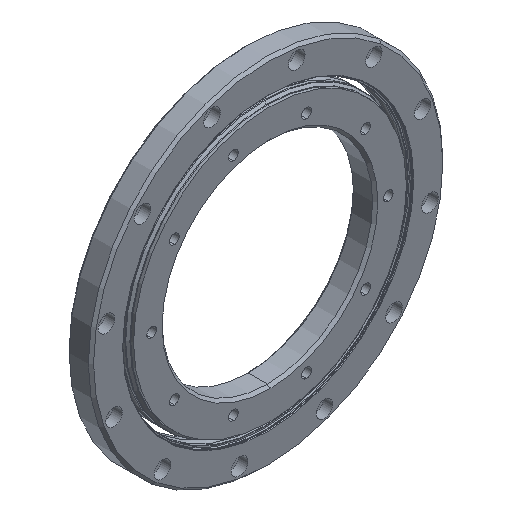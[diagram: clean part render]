
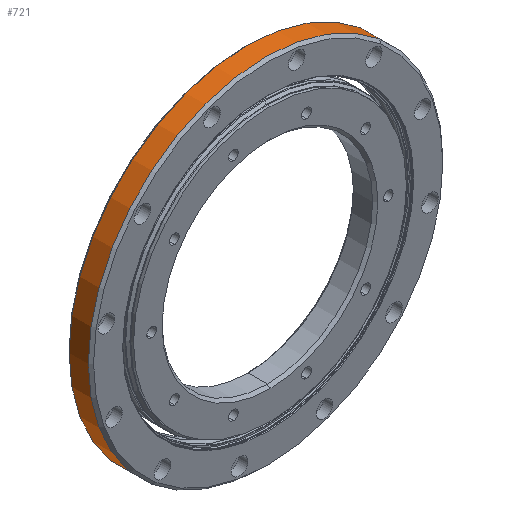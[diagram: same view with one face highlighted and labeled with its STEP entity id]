
A CAD part, isometric view. The second image highlights one B-rep face of the part: STEP entity #721.
In plain terms, the highlighted cylindrical face has radius 101.6 mm (diameter 203.2 mm), a partial arc.
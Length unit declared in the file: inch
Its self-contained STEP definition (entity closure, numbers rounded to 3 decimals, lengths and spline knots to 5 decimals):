
#213 = CARTESIAN_POINT ( 'NONE',  ( 0., 0.09843, 0. ) ) ;
#549 = CARTESIAN_POINT ( 'NONE',  ( 0., 0., 4. ) ) ;
#681 = DIRECTION ( 'NONE',  ( 0., 0., -1. ) ) ;
#721 = ADVANCED_FACE ( 'NONE', ( #2784 ), #4926, .T. ) ;
#1043 = ORIENTED_EDGE ( 'NONE', *, *, #1100, .T. ) ;
#1100 = EDGE_CURVE ( 'NONE', #4924, #5386, #3848, .T. ) ;
#1104 = ORIENTED_EDGE ( 'NONE', *, *, #3352, .T. ) ;
#1178 = CARTESIAN_POINT ( 'NONE',  ( 0., 0.09843, -4. ) ) ;
#1238 = VECTOR ( 'NONE', #1432, 39.37008 ) ;
#1279 = VERTEX_POINT ( 'NONE', #4013 ) ;
#1379 = VERTEX_POINT ( 'NONE', #3590 ) ;
#1432 = DIRECTION ( 'NONE',  ( 0., -1., 0. ) ) ;
#1598 = EDGE_LOOP ( 'NONE', ( #2406, #1104, #1043, #2648 ) ) ;
#1880 = AXIS2_PLACEMENT_3D ( 'NONE', #4830, #1886, #1920 ) ;
#1886 = DIRECTION ( 'NONE',  ( 0., -1., 0. ) ) ;
#1920 = DIRECTION ( 'NONE',  ( 0., 0., -1. ) ) ;
#2160 = AXIS2_PLACEMENT_3D ( 'NONE', #213, #3284, #681 ) ;
#2204 = AXIS2_PLACEMENT_3D ( 'NONE', #5124, #2558, #5544 ) ;
#2406 = ORIENTED_EDGE ( 'NONE', *, *, #2862, .F. ) ;
#2487 = DIRECTION ( 'NONE',  ( 0., -1., 0. ) ) ;
#2558 = DIRECTION ( 'NONE',  ( 0., -1., 0. ) ) ;
#2648 = ORIENTED_EDGE ( 'NONE', *, *, #4092, .T. ) ;
#2784 = FACE_OUTER_BOUND ( 'NONE', #1598, .T. ) ;
#2862 = EDGE_CURVE ( 'NONE', #1279, #1379, #3811, .T. ) ;
#3284 = DIRECTION ( 'NONE',  ( 0., 1., 0. ) ) ;
#3352 = EDGE_CURVE ( 'NONE', #1279, #4924, #3672, .T. ) ;
#3590 = CARTESIAN_POINT ( 'NONE',  ( 0., 0.09843, 4. ) ) ;
#3672 = CIRCLE ( 'NONE', #2204, 4. ) ;
#3811 = LINE ( 'NONE', #549, #1238 ) ;
#3848 = LINE ( 'NONE', #5126, #4850 ) ;
#4013 = CARTESIAN_POINT ( 'NONE',  ( 0., 0.5315, 4. ) ) ;
#4092 = EDGE_CURVE ( 'NONE', #5386, #1379, #4328, .T. ) ;
#4328 = CIRCLE ( 'NONE', #2160, 4. ) ;
#4671 = CARTESIAN_POINT ( 'NONE',  ( 0., 0.5315, -4. ) ) ;
#4830 = CARTESIAN_POINT ( 'NONE',  ( 0., 0., 0. ) ) ;
#4850 = VECTOR ( 'NONE', #2487, 39.37008 ) ;
#4924 = VERTEX_POINT ( 'NONE', #4671 ) ;
#4926 = CYLINDRICAL_SURFACE ( 'NONE', #1880, 4. ) ;
#5124 = CARTESIAN_POINT ( 'NONE',  ( 0., 0.5315, 0. ) ) ;
#5126 = CARTESIAN_POINT ( 'NONE',  ( 0., 0., -4. ) ) ;
#5386 = VERTEX_POINT ( 'NONE', #1178 ) ;
#5544 = DIRECTION ( 'NONE',  ( 0., 0., -1. ) ) ;
